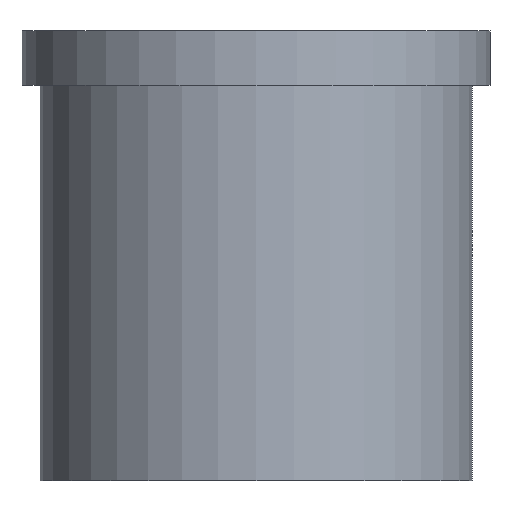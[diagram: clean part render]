
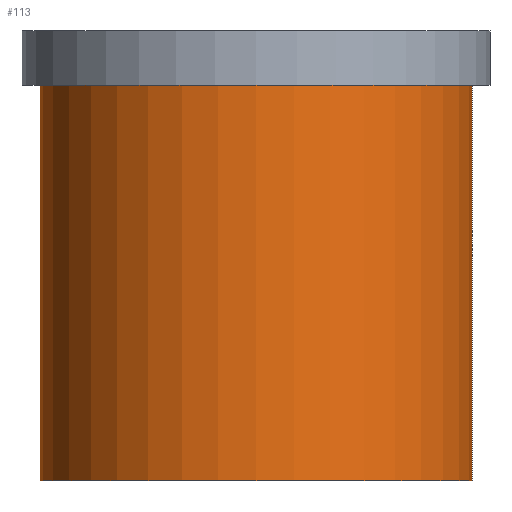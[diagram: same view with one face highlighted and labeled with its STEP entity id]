
A CAD part, front view. The second image highlights one B-rep face of the part: STEP entity #113.
In plain terms, the highlighted cylindrical face has radius 12 mm (diameter 24 mm), a partial arc.
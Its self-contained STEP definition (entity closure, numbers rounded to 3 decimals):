
#113=ADVANCED_FACE('',(#126),#120,.T.);
#120=CYLINDRICAL_SURFACE('',#249,12.);
#126=FACE_OUTER_BOUND('',#136,.T.);
#136=EDGE_LOOP('',(#179,#180,#181,#182));
#148=CIRCLE('',#244,12.);
#150=CIRCLE('',#248,12.);
#179=ORIENTED_EDGE('',*,*,#213,.F.);
#180=ORIENTED_EDGE('',*,*,#212,.T.);
#181=ORIENTED_EDGE('',*,*,#215,.T.);
#182=ORIENTED_EDGE('',*,*,#216,.F.);
#195=VERTEX_POINT('',#328);
#196=VERTEX_POINT('',#329);
#197=VERTEX_POINT('',#333);
#198=VERTEX_POINT('',#335);
#212=EDGE_CURVE('',#196,#195,#148,.T.);
#213=EDGE_CURVE('',#196,#197,#221,.T.);
#215=EDGE_CURVE('',#195,#198,#222,.T.);
#216=EDGE_CURVE('',#197,#198,#150,.T.);
#221=LINE('',#332,#227);
#222=LINE('',#336,#228);
#227=VECTOR('',#289,1.);
#228=VECTOR('',#292,1.);
#244=AXIS2_PLACEMENT_3D('',#330,#285,#286);
#248=AXIS2_PLACEMENT_3D('',#338,#295,#296);
#249=AXIS2_PLACEMENT_3D('',#339,#297,#298);
#285=DIRECTION('',(0.,0.,1.));
#286=DIRECTION('',(0.,1.,0.));
#289=DIRECTION('',(0.,0.,1.));
#292=DIRECTION('',(0.,0.,1.));
#295=DIRECTION('',(0.,0.,1.));
#296=DIRECTION('',(0.,1.,0.));
#297=DIRECTION('',(0.,0.,1.));
#298=DIRECTION('',(0.,-1.,0.));
#328=CARTESIAN_POINT('',(12.,0.,-22.));
#329=CARTESIAN_POINT('',(-12.,0.,-22.));
#330=CARTESIAN_POINT('',(0.,0.,-22.));
#332=CARTESIAN_POINT('',(-12.,0.,-22.));
#333=CARTESIAN_POINT('',(-12.,0.,0.));
#335=CARTESIAN_POINT('',(12.,0.,0.));
#336=CARTESIAN_POINT('',(12.,0.,-22.));
#338=CARTESIAN_POINT('',(0.,0.,0.));
#339=CARTESIAN_POINT('',(0.,0.,-22.));
